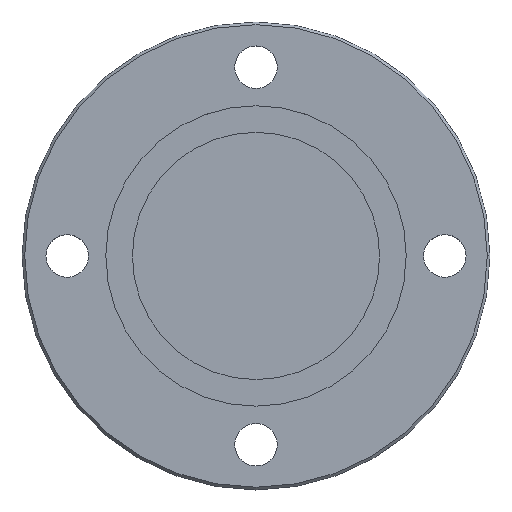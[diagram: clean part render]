
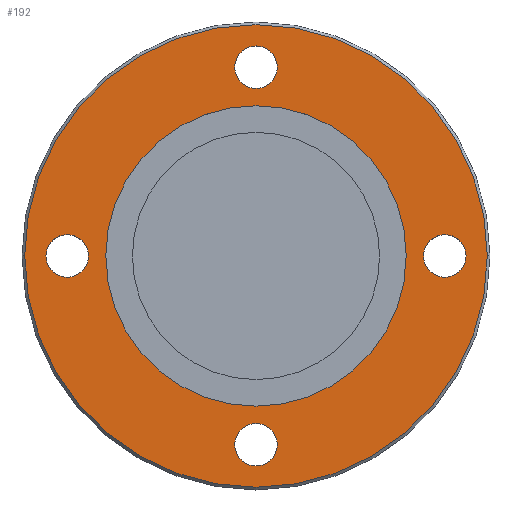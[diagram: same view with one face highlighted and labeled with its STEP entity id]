
A CAD part, top view. The second image highlights one B-rep face of the part: STEP entity #192.
In plain terms, the highlighted planar face has unit normal (0, 0, 1).
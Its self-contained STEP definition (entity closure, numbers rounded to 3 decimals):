
#4 = VERTEX_POINT ( 'NONE', #494 ) ;
#7 = ORIENTED_EDGE ( 'NONE', *, *, #704, .F. ) ;
#14 = PLANE ( 'NONE',  #612 ) ;
#47 = EDGE_LOOP ( 'NONE', ( #448, #231 ) ) ;
#49 = CARTESIAN_POINT ( 'NONE',  ( 4., -35.5, 10. ) ) ;
#52 = AXIS2_PLACEMENT_3D ( 'NONE', #263, #432, #204 ) ;
#56 = EDGE_CURVE ( 'NONE', #700, #77, #146, .T. ) ;
#64 = VERTEX_POINT ( 'NONE', #555 ) ;
#69 = FACE_BOUND ( 'NONE', #638, .T. ) ;
#74 = CARTESIAN_POINT ( 'NONE',  ( -4., -35.5, 10. ) ) ;
#75 = CARTESIAN_POINT ( 'NONE',  ( 0., 43.5, 10. ) ) ;
#77 = VERTEX_POINT ( 'NONE', #49 ) ;
#79 = CIRCLE ( 'NONE', #489, 28.25 ) ;
#86 = EDGE_CURVE ( 'NONE', #77, #700, #509, .T. ) ;
#105 = VERTEX_POINT ( 'NONE', #303 ) ;
#108 = AXIS2_PLACEMENT_3D ( 'NONE', #230, #512, #165 ) ;
#113 = CIRCLE ( 'NONE', #538, 4. ) ;
#114 = CARTESIAN_POINT ( 'NONE',  ( 0., 35.5, 10. ) ) ;
#121 = ORIENTED_EDGE ( 'NONE', *, *, #491, .F. ) ;
#127 = ORIENTED_EDGE ( 'NONE', *, *, #553, .F. ) ;
#128 = CARTESIAN_POINT ( 'NONE',  ( 0., 0., 10. ) ) ;
#133 = CARTESIAN_POINT ( 'NONE',  ( 35.5, -4., 10. ) ) ;
#140 = CIRCLE ( 'NONE', #360, 43.5 ) ;
#145 = ORIENTED_EDGE ( 'NONE', *, *, #56, .F. ) ;
#146 = CIRCLE ( 'NONE', #108, 4. ) ;
#149 = ORIENTED_EDGE ( 'NONE', *, *, #444, .F. ) ;
#163 = ORIENTED_EDGE ( 'NONE', *, *, #314, .F. ) ;
#165 = DIRECTION ( 'NONE',  ( -1., 0., 0. ) ) ;
#171 = CIRCLE ( 'NONE', #714, 4. ) ;
#192 = ADVANCED_FACE ( 'NONE', ( #576, #532, #641, #294, #69, #298 ), #14, .F. ) ;
#204 = DIRECTION ( 'NONE',  ( 0., -1., 0. ) ) ;
#213 = CIRCLE ( 'NONE', #326, 43.5 ) ;
#219 = EDGE_CURVE ( 'NONE', #557, #236, #302, .T. ) ;
#220 = CARTESIAN_POINT ( 'NONE',  ( -35.5, 0., 10. ) ) ;
#223 = DIRECTION ( 'NONE',  ( 0., 0., 1. ) ) ;
#226 = DIRECTION ( 'NONE',  ( 1., 0., 0. ) ) ;
#229 = CARTESIAN_POINT ( 'NONE',  ( -28.25, 0., 10. ) ) ;
#230 = CARTESIAN_POINT ( 'NONE',  ( 0., -35.5, 10. ) ) ;
#231 = ORIENTED_EDGE ( 'NONE', *, *, #524, .T. ) ;
#233 = CIRCLE ( 'NONE', #587, 4. ) ;
#234 = VERTEX_POINT ( 'NONE', #699 ) ;
#235 = CIRCLE ( 'NONE', #309, 4. ) ;
#236 = VERTEX_POINT ( 'NONE', #133 ) ;
#242 = DIRECTION ( 'NONE',  ( 0., 0., -1. ) ) ;
#251 = EDGE_CURVE ( 'NONE', #4, #234, #113, .T. ) ;
#252 = CARTESIAN_POINT ( 'NONE',  ( 0., 35.5, 10. ) ) ;
#263 = CARTESIAN_POINT ( 'NONE',  ( 35.5, 0., 10. ) ) ;
#265 = CARTESIAN_POINT ( 'NONE',  ( -43.5, 0., 10. ) ) ;
#269 = CIRCLE ( 'NONE', #679, 28.25 ) ;
#278 = EDGE_LOOP ( 'NONE', ( #121, #7 ) ) ;
#282 = DIRECTION ( 'NONE',  ( -1., 0., 0. ) ) ;
#294 = FACE_BOUND ( 'NONE', #581, .T. ) ;
#298 = FACE_OUTER_BOUND ( 'NONE', #47, .T. ) ;
#299 = VERTEX_POINT ( 'NONE', #321 ) ;
#301 = DIRECTION ( 'NONE',  ( 0., 0., 1. ) ) ;
#302 = CIRCLE ( 'NONE', #711, 4. ) ;
#303 = CARTESIAN_POINT ( 'NONE',  ( 43.5, 0., 10. ) ) ;
#309 = AXIS2_PLACEMENT_3D ( 'NONE', #220, #607, #382 ) ;
#312 = CARTESIAN_POINT ( 'NONE',  ( -35.5, -4., 10. ) ) ;
#314 = EDGE_CURVE ( 'NONE', #236, #557, #693, .T. ) ;
#321 = CARTESIAN_POINT ( 'NONE',  ( 28.25, 0., 10. ) ) ;
#326 = AXIS2_PLACEMENT_3D ( 'NONE', #337, #554, #562 ) ;
#330 = DIRECTION ( 'NONE',  ( 0., 0., 1. ) ) ;
#337 = CARTESIAN_POINT ( 'NONE',  ( 0., 0., 10. ) ) ;
#351 = CARTESIAN_POINT ( 'NONE',  ( -35.5, 0., 10. ) ) ;
#352 = CARTESIAN_POINT ( 'NONE',  ( 35.5, 0., 10. ) ) ;
#360 = AXIS2_PLACEMENT_3D ( 'NONE', #128, #301, #467 ) ;
#382 = DIRECTION ( 'NONE',  ( 0., 1., 0. ) ) ;
#384 = ORIENTED_EDGE ( 'NONE', *, *, #507, .F. ) ;
#387 = VERTEX_POINT ( 'NONE', #265 ) ;
#391 = EDGE_LOOP ( 'NONE', ( #163, #677 ) ) ;
#403 = VERTEX_POINT ( 'NONE', #312 ) ;
#425 = DIRECTION ( 'NONE',  ( 1., 0., 0. ) ) ;
#432 = DIRECTION ( 'NONE',  ( 0., 0., 1. ) ) ;
#444 = EDGE_CURVE ( 'NONE', #234, #4, #171, .T. ) ;
#445 = CARTESIAN_POINT ( 'NONE',  ( 0., -35.5, 10. ) ) ;
#447 = CARTESIAN_POINT ( 'NONE',  ( 35.5, 4., 10. ) ) ;
#448 = ORIENTED_EDGE ( 'NONE', *, *, #601, .T. ) ;
#450 = VERTEX_POINT ( 'NONE', #229 ) ;
#467 = DIRECTION ( 'NONE',  ( 1., 0., 0. ) ) ;
#489 = AXIS2_PLACEMENT_3D ( 'NONE', #550, #330, #620 ) ;
#490 = DIRECTION ( 'NONE',  ( 0., 0., 1. ) ) ;
#491 = EDGE_CURVE ( 'NONE', #64, #403, #235, .T. ) ;
#494 = CARTESIAN_POINT ( 'NONE',  ( 4., 35.5, 10. ) ) ;
#497 = DIRECTION ( 'NONE',  ( 1., 0., 0. ) ) ;
#502 = CARTESIAN_POINT ( 'NONE',  ( 0., 0., 10. ) ) ;
#507 = EDGE_CURVE ( 'NONE', #299, #450, #79, .T. ) ;
#509 = CIRCLE ( 'NONE', #570, 4. ) ;
#512 = DIRECTION ( 'NONE',  ( 0., 0., 1. ) ) ;
#524 = EDGE_CURVE ( 'NONE', #105, #387, #213, .T. ) ;
#532 = FACE_BOUND ( 'NONE', #561, .T. ) ;
#538 = AXIS2_PLACEMENT_3D ( 'NONE', #252, #712, #425 ) ;
#550 = CARTESIAN_POINT ( 'NONE',  ( 0., 0., 10. ) ) ;
#553 = EDGE_CURVE ( 'NONE', #450, #299, #269, .T. ) ;
#554 = DIRECTION ( 'NONE',  ( 0., 0., 1. ) ) ;
#555 = CARTESIAN_POINT ( 'NONE',  ( -35.5, 4., 10. ) ) ;
#557 = VERTEX_POINT ( 'NONE', #447 ) ;
#561 = EDGE_LOOP ( 'NONE', ( #145, #666 ) ) ;
#562 = DIRECTION ( 'NONE',  ( 1., 0., 0. ) ) ;
#570 = AXIS2_PLACEMENT_3D ( 'NONE', #445, #611, #282 ) ;
#576 = FACE_BOUND ( 'NONE', #278, .T. ) ;
#579 = DIRECTION ( 'NONE',  ( 0., 0., 1. ) ) ;
#580 = DIRECTION ( 'NONE',  ( 0., 0., 1. ) ) ;
#581 = EDGE_LOOP ( 'NONE', ( #697, #149 ) ) ;
#587 = AXIS2_PLACEMENT_3D ( 'NONE', #351, #579, #627 ) ;
#601 = EDGE_CURVE ( 'NONE', #387, #105, #140, .T. ) ;
#607 = DIRECTION ( 'NONE',  ( 0., 0., 1. ) ) ;
#611 = DIRECTION ( 'NONE',  ( 0., 0., 1. ) ) ;
#612 = AXIS2_PLACEMENT_3D ( 'NONE', #75, #242, #692 ) ;
#620 = DIRECTION ( 'NONE',  ( 1., 0., 0. ) ) ;
#627 = DIRECTION ( 'NONE',  ( 0., 1., 0. ) ) ;
#637 = DIRECTION ( 'NONE',  ( 0., -1., 0. ) ) ;
#638 = EDGE_LOOP ( 'NONE', ( #384, #127 ) ) ;
#641 = FACE_BOUND ( 'NONE', #391, .T. ) ;
#666 = ORIENTED_EDGE ( 'NONE', *, *, #86, .F. ) ;
#677 = ORIENTED_EDGE ( 'NONE', *, *, #219, .F. ) ;
#679 = AXIS2_PLACEMENT_3D ( 'NONE', #502, #490, #226 ) ;
#692 = DIRECTION ( 'NONE',  ( -1., 0., 0. ) ) ;
#693 = CIRCLE ( 'NONE', #52, 4. ) ;
#697 = ORIENTED_EDGE ( 'NONE', *, *, #251, .F. ) ;
#699 = CARTESIAN_POINT ( 'NONE',  ( -4., 35.5, 10. ) ) ;
#700 = VERTEX_POINT ( 'NONE', #74 ) ;
#704 = EDGE_CURVE ( 'NONE', #403, #64, #233, .T. ) ;
#711 = AXIS2_PLACEMENT_3D ( 'NONE', #352, #580, #637 ) ;
#712 = DIRECTION ( 'NONE',  ( 0., 0., 1. ) ) ;
#714 = AXIS2_PLACEMENT_3D ( 'NONE', #114, #223, #497 ) ;
